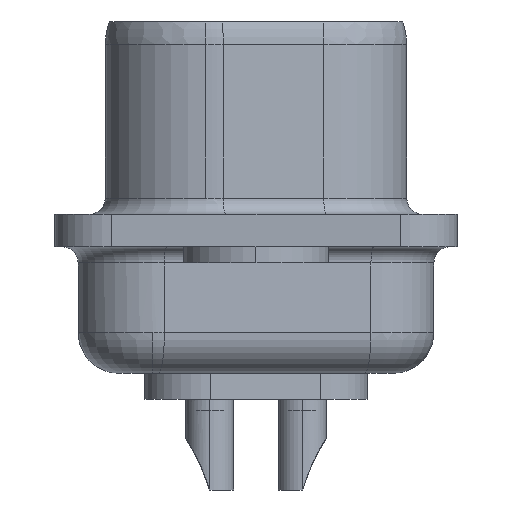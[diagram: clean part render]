
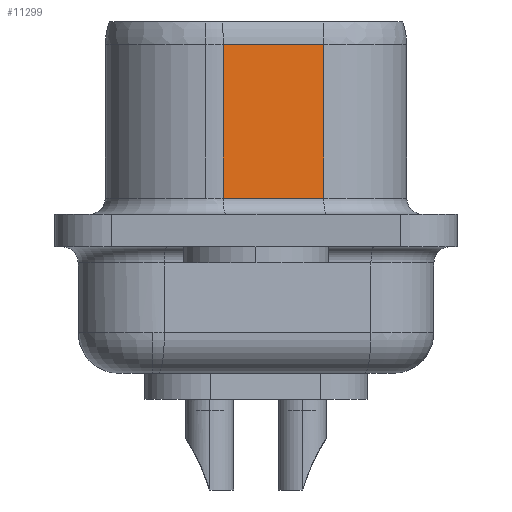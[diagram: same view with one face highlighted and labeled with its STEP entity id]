
A CAD part, left-side view. The second image highlights one B-rep face of the part: STEP entity #11299.
In plain terms, the highlighted planar face has unit normal (-0.985, -0.174, 0).
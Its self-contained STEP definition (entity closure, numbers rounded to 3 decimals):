
#709 = PLANE ( 'NONE',  #17344 ) ;
#954 = CARTESIAN_POINT ( 'NONE',  ( -27.556, -2.088, 1. ) ) ;
#1041 = ORIENTED_EDGE ( 'NONE', *, *, #10191, .T. ) ;
#2118 = DIRECTION ( 'NONE',  ( -0.174, 0.985, 0. ) ) ;
#2139 = LINE ( 'NONE', #16726, #15278 ) ;
#2859 = VECTOR ( 'NONE', #2118, 1000. ) ;
#4087 = CARTESIAN_POINT ( 'NONE',  ( -28.103, 1.012, 6.43 ) ) ;
#4473 = LINE ( 'NONE', #9702, #17628 ) ;
#6024 = CARTESIAN_POINT ( 'NONE',  ( -28.103, 1.012, 1. ) ) ;
#6977 = CARTESIAN_POINT ( 'NONE',  ( -28.103, 1.012, 5.73 ) ) ;
#7022 = ORIENTED_EDGE ( 'NONE', *, *, #12380, .T. ) ;
#7184 = LINE ( 'NONE', #7233, #2859 ) ;
#7233 = CARTESIAN_POINT ( 'NONE',  ( -27.556, -2.088, 5.73 ) ) ;
#7315 = VECTOR ( 'NONE', #19874, 1000. ) ;
#8045 = DIRECTION ( 'NONE',  ( 0., 0., -1. ) ) ;
#8113 = LINE ( 'NONE', #6024, #7315 ) ;
#8200 = EDGE_LOOP ( 'NONE', ( #20757, #13639, #7022, #1041 ) ) ;
#9702 = CARTESIAN_POINT ( 'NONE',  ( -27.556, -2.088, 6.43 ) ) ;
#10191 = EDGE_CURVE ( 'NONE', #18081, #12877, #8113, .T. ) ;
#11299 = ADVANCED_FACE ( 'NONE', ( #15302 ), #709, .F. ) ;
#12052 = CARTESIAN_POINT ( 'NONE',  ( -28.103, 1.012, 1. ) ) ;
#12380 = EDGE_CURVE ( 'NONE', #18633, #18081, #2139, .T. ) ;
#12877 = VERTEX_POINT ( 'NONE', #954 ) ;
#13639 = ORIENTED_EDGE ( 'NONE', *, *, #21328, .T. ) ;
#15278 = VECTOR ( 'NONE', #16434, 1000. ) ;
#15302 = FACE_OUTER_BOUND ( 'NONE', #8200, .T. ) ;
#16086 = DIRECTION ( 'NONE',  ( 0.985, 0.174, 0. ) ) ;
#16434 = DIRECTION ( 'NONE',  ( 0., 0., -1. ) ) ;
#16726 = CARTESIAN_POINT ( 'NONE',  ( -28.103, 1.012, 6.43 ) ) ;
#17344 = AXIS2_PLACEMENT_3D ( 'NONE', #4087, #16086, #17955 ) ;
#17628 = VECTOR ( 'NONE', #8045, 1000. ) ;
#17955 = DIRECTION ( 'NONE',  ( -0.174, 0.985, 0. ) ) ;
#18081 = VERTEX_POINT ( 'NONE', #12052 ) ;
#18297 = CARTESIAN_POINT ( 'NONE',  ( -27.556, -2.088, 5.73 ) ) ;
#18408 = VERTEX_POINT ( 'NONE', #18297 ) ;
#18633 = VERTEX_POINT ( 'NONE', #6977 ) ;
#19874 = DIRECTION ( 'NONE',  ( 0.174, -0.985, 0. ) ) ;
#20757 = ORIENTED_EDGE ( 'NONE', *, *, #21582, .F. ) ;
#21328 = EDGE_CURVE ( 'NONE', #18408, #18633, #7184, .T. ) ;
#21582 = EDGE_CURVE ( 'NONE', #18408, #12877, #4473, .T. ) ;
